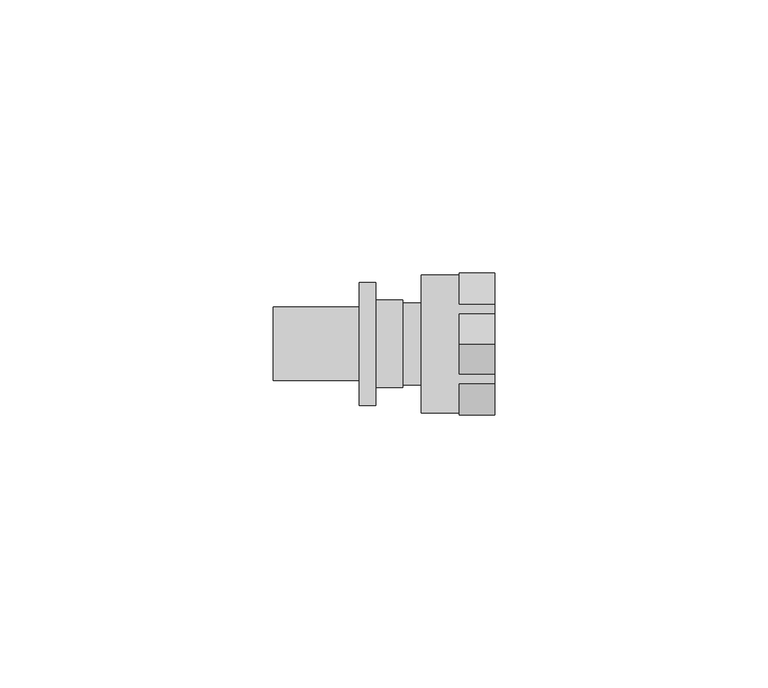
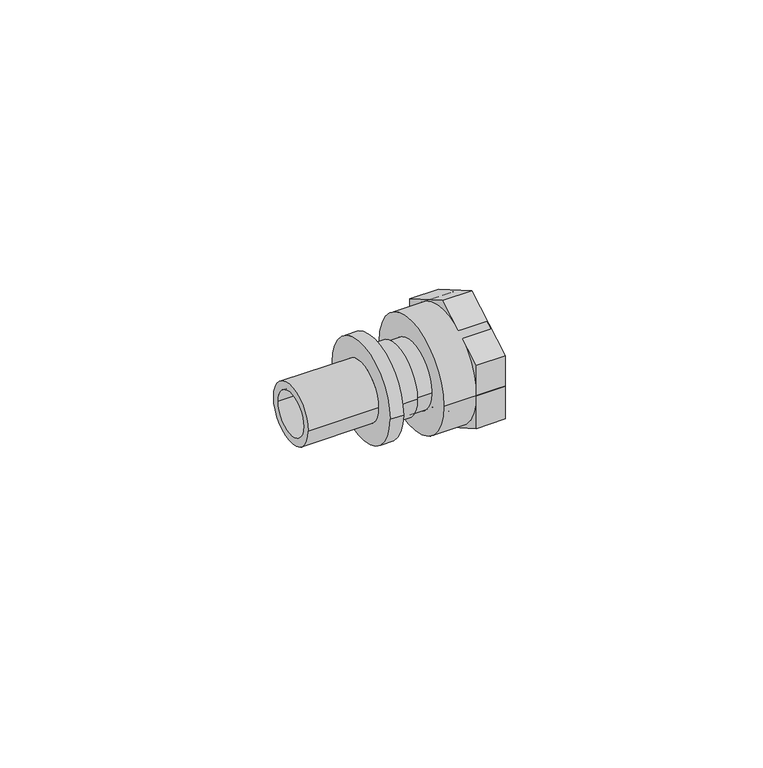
"""IFC4 building model written with IfcOpenShell, lengths in millimetres: pipe fitting geometry, REHAU_RAUTITAN_Adaptor_RX+_union nut : REHAU_RAUTITAN_Adaptor_RX+_union nut."""

from ifc_helpers import new_model, si_unit, point, frame, origin, origin_2d, place, context, project, spatial, polyline, circle_curve, trimmed, segment, composite_curve, outline, extrude, source, transform, mapped, element, save
from ifc_brep_helpers import plane_surface, cylinder_surface, revolved_surface, advanced_brep


def pipe_fitting_8a4c1e15(model_context):
    return source(origin(), model_context, "Body", "SolidModel", [
        advanced_brep(
        [(0.0, 8.0, 0.0), (0.0, -8.0, 0.0), (-5.0, -8.0, 0.0), (-5.0, 8.0, 0.0), (-23.75, 4.95, 0.0), (-23.75, -4.95, 0.0), (0.0, -4.95, 0.0), (0.0, 4.95, 0.0), (-8.0, 6.725, 0.0), (-8.0, -6.725, 0.0), (-23.75, -6.725, 0.0), (-23.75, 6.725, 0.0), (-5.0, 11.25, 0.0), (-5.0, -11.25, 0.0), (-8.0, -11.25, 0.0), (-8.0, 11.25, 0.0)],
        [
            (0, 1, circle_curve(frame((0.0, 0.0, 0.0), z_axis=(-1.0, 0.0, 0.0), x_axis=(0.0, -1.0, 0.0)), 8.0)),
            (1, 2),
            (2, 3, circle_curve(frame((-5.0, 0.0, 0.0), z_axis=(1.0, 0.0, 0.0), x_axis=(0.0, -1.0, 0.0)), 8.0)),
            (3, 0),
            (4, 5, circle_curve(frame((-23.75, 0.0, 0.0), z_axis=(-1.0, 0.0, 0.0), x_axis=(0.0, -1.0, 0.0)), 4.95)),
            (5, 6),
            (6, 7, circle_curve(frame((0.0, 0.0, 0.0), z_axis=(1.0, 0.0, 0.0), x_axis=(0.0, -1.0, 0.0)), 4.95)),
            (7, 4),
            (8, 9, circle_curve(frame((-8.0, 0.0, 0.0), z_axis=(-1.0, 0.0, 0.0), x_axis=(0.0, -1.0, 0.0)), 6.725)),
            (9, 10),
            (10, 11, circle_curve(frame((-23.75, 0.0, 0.0), z_axis=(1.0, 0.0, 0.0), x_axis=(0.0, -1.0, 0.0)), 6.725)),
            (11, 8),
            (12, 13, circle_curve(frame((-5.0, 0.0, 0.0), z_axis=(-1.0, 0.0, 0.0), x_axis=(0.0, -1.0, 0.0)), 11.25)),
            (13, 14),
            (14, 15, circle_curve(frame((-8.0, 0.0, 0.0), z_axis=(1.0, 0.0, 0.0), x_axis=(0.0, -1.0, 0.0)), 11.25)),
            (15, 12),
            (1, 0, circle_curve(frame((0.0, 0.0, 0.0), z_axis=(-1.0, 0.0, 0.0), x_axis=(0.0, 1.0, 0.0)), 8.0)),
            (3, 2, circle_curve(frame((-5.0, 0.0, 0.0), z_axis=(1.0, 0.0, 0.0), x_axis=(0.0, 1.0, 0.0)), 8.0)),
            (6, 7, circle_curve(frame((0.0, 0.0, 0.0), z_axis=(-1.0, 0.0, 0.0), x_axis=(0.0, 1.0, 0.0)), 4.95)),
            (5, 4, circle_curve(frame((-23.75, 0.0, 0.0), z_axis=(-1.0, 0.0, 0.0), x_axis=(0.0, 1.0, 0.0)), 4.95)),
            (10, 11, circle_curve(frame((-23.75, 0.0, 0.0), z_axis=(-1.0, 0.0, 0.0), x_axis=(0.0, 1.0, 0.0)), 6.725)),
            (9, 8, circle_curve(frame((-8.0, 0.0, 0.0), z_axis=(-1.0, 0.0, 0.0), x_axis=(0.0, 1.0, 0.0)), 6.725)),
            (14, 15, circle_curve(frame((-8.0, 0.0, 0.0), z_axis=(-1.0, 0.0, 0.0), x_axis=(0.0, 1.0, 0.0)), 11.25)),
            (13, 12, circle_curve(frame((-5.0, 0.0, 0.0), z_axis=(-1.0, 0.0, 0.0), x_axis=(0.0, 1.0, 0.0)), 11.25)),
        ],
        [
            cylinder_surface(frame((0.0, 0.0, 0.0), z_axis=(1.0, 0.0, 0.0), x_axis=(0.0, -1.0, 0.0)), 8.0),
            revolved_surface(polyline([(0.0, -4.95, 0.0), (-23.75, -4.95, 0.0)]), (0.0, 0.0, 0.0), (1.0, 0.0, 0.0)),
            cylinder_surface(frame((0.0, 0.0, 0.0), z_axis=(1.0, 0.0, 0.0), x_axis=(0.0, -1.0, 0.0)), 6.725),
            cylinder_surface(frame((0.0, 0.0, 0.0), z_axis=(1.0, 0.0, 0.0), x_axis=(0.0, -1.0, 0.0)), 11.25),
            cylinder_surface(frame((0.0, 0.0, 0.0), z_axis=(1.0, 0.0, 0.0), x_axis=(0.0, 1.0, 0.0)), 8.0),
            plane_surface(frame((0.0, 0.0, 0.0), z_axis=(1.0, 0.0, 0.0), x_axis=(0.0, 1.0, 0.0))),
            revolved_surface(polyline([(0.0, 4.95, 0.0), (-23.75, 4.95, 0.0)]), (0.0, 0.0, 0.0), (1.0, 0.0, 0.0)),
            plane_surface(frame((-23.75, 0.0, 0.0), z_axis=(-1.0, 0.0, 0.0), x_axis=(0.0, 1.0, 0.0))),
            cylinder_surface(frame((0.0, 0.0, 0.0), z_axis=(1.0, 0.0, 0.0), x_axis=(0.0, 1.0, 0.0)), 6.725),
            plane_surface(frame((-8.0, 0.0, 0.0), z_axis=(-1.0, 0.0, 0.0), x_axis=(0.0, 1.0, 0.0))),
            cylinder_surface(frame((0.0, 0.0, 0.0), z_axis=(1.0, 0.0, 0.0), x_axis=(0.0, 1.0, 0.0)), 11.25),
            plane_surface(frame((-5.0, 0.0, 0.0), z_axis=(1.0, 0.0, 0.0), x_axis=(0.0, 1.0, 0.0))),
        ],
        [
            (0, [[1, 2, 3, 4]]),
            (1, [[5, 6, 7, 8]]),
            (2, [[9, 10, 11, 12]]),
            (3, [[13, 14, 15, 16]]),
            (4, [[17, -4, 18, -2]]),
            (5, [[-17, -1], [19, -7]]),
            (6, [[20, -8, -19, -6]]),
            (7, [[21, -11], [-20, -5]]),
            (8, [[22, -12, -21, -10]]),
            (9, [[23, -15], [-22, -9]]),
            (10, [[24, -16, -23, -14]]),
            (11, [[-24, -13], [-18, -3]]),
        ],
    ),
        advanced_brep(
        [(5.05, 7.5, 0.0), (5.05, -7.5, 0.0), (0.0, -7.5, 0.0), (0.0, 7.5, 0.0), (8.05, 9.25, 0.0), (8.05, -9.25, 0.0), (5.05, -9.25, 0.0), (5.05, 9.25, 0.0), (1.4730817, 4.95, 0.0), (1.4730817, -4.95, 0.0), (8.05, -4.95, 0.0), (8.05, 4.95, 0.0), (0.0, 2.7764556, 0.0), (0.0, -2.7764556, 0.0), (1.4730817, -2.7764556, 0.0), (1.4730817, 2.7764556, 0.0)],
        [
            (0, 1, circle_curve(frame((5.05, 0.0, 0.0), z_axis=(-1.0, 0.0, 0.0), x_axis=(0.0, -1.0, 0.0)), 7.5)),
            (1, 2),
            (2, 3, circle_curve(frame((0.0, 0.0, 0.0), z_axis=(1.0, 0.0, 0.0), x_axis=(0.0, -1.0, 0.0)), 7.5)),
            (3, 0),
            (4, 5, circle_curve(frame((8.05, 0.0, 0.0), z_axis=(-1.0, 0.0, 0.0), x_axis=(0.0, -1.0, 0.0)), 9.25)),
            (5, 6),
            (6, 7, circle_curve(frame((5.05, 0.0, 0.0), z_axis=(1.0, 0.0, 0.0), x_axis=(0.0, -1.0, 0.0)), 9.25)),
            (7, 4),
            (8, 9, circle_curve(frame((1.4730817, 0.0, 0.0), z_axis=(-1.0, 0.0, 0.0), x_axis=(0.0, -1.0, 0.0)), 4.95)),
            (9, 10),
            (10, 11, circle_curve(frame((8.05, 0.0, 0.0), z_axis=(1.0, 0.0, 0.0), x_axis=(0.0, -1.0, 0.0)), 4.95)),
            (11, 8),
            (2, 3, circle_curve(frame((0.0, 0.0, 0.0), z_axis=(-1.0, 0.0, 0.0), x_axis=(0.0, 1.0, 0.0)), 7.5)),
            (12, 13, circle_curve(frame((0.0, 0.0, 0.0), z_axis=(1.0, 0.0, 0.0), x_axis=(0.0, 1.0, 0.0)), 2.7764556)),
            (13, 12, circle_curve(frame((0.0, 0.0, 0.0), z_axis=(1.0, 0.0, 0.0), x_axis=(0.0, -1.0, 0.0)), 2.7764556)),
            (1, 0, circle_curve(frame((5.05, 0.0, 0.0), z_axis=(-1.0, 0.0, 0.0), x_axis=(0.0, 1.0, 0.0)), 7.5)),
            (6, 7, circle_curve(frame((5.05, 0.0, 0.0), z_axis=(-1.0, 0.0, 0.0), x_axis=(0.0, 1.0, 0.0)), 9.25)),
            (5, 4, circle_curve(frame((8.05, 0.0, 0.0), z_axis=(-1.0, 0.0, 0.0), x_axis=(0.0, 1.0, 0.0)), 9.25)),
            (10, 11, circle_curve(frame((8.05, 0.0, 0.0), z_axis=(-1.0, 0.0, 0.0), x_axis=(0.0, 1.0, 0.0)), 4.95)),
            (9, 8, circle_curve(frame((1.4730817, 0.0, 0.0), z_axis=(-1.0, 0.0, 0.0), x_axis=(0.0, 1.0, 0.0)), 4.95)),
            (13, 14),
            (14, 15, circle_curve(frame((1.4730817, 0.0, 0.0), z_axis=(1.0, 0.0, 0.0), x_axis=(0.0, -1.0, 0.0)), 2.7764556)),
            (15, 12),
            (14, 15, circle_curve(frame((1.4730817, 0.0, 0.0), z_axis=(-1.0, 0.0, 0.0), x_axis=(0.0, 1.0, 0.0)), 2.7764556)),
        ],
        [
            cylinder_surface(frame((0.0, 0.0, 0.0), z_axis=(1.0, 0.0, 0.0), x_axis=(0.0, -1.0, 0.0)), 7.5),
            cylinder_surface(frame((0.0, 0.0, 0.0), z_axis=(1.0, 0.0, 0.0), x_axis=(0.0, -1.0, 0.0)), 9.25),
            revolved_surface(polyline([(8.05, -4.95, 0.0), (1.4730817, -4.95, 0.0)]), (0.0, 0.0, 0.0), (1.0, 0.0, 0.0)),
            plane_surface(frame((0.0, 0.0, 0.0), z_axis=(-1.0, 0.0, 0.0), x_axis=(0.0, 1.0, 0.0))),
            cylinder_surface(frame((0.0, 0.0, 0.0), z_axis=(1.0, 0.0, 0.0), x_axis=(0.0, 1.0, 0.0)), 7.5),
            plane_surface(frame((5.05, 0.0, 0.0), z_axis=(-1.0, 0.0, 0.0), x_axis=(0.0, 1.0, 0.0))),
            cylinder_surface(frame((0.0, 0.0, 0.0), z_axis=(1.0, 0.0, 0.0), x_axis=(0.0, 1.0, 0.0)), 9.25),
            plane_surface(frame((8.05, 0.0, 0.0), z_axis=(1.0, 0.0, 0.0), x_axis=(0.0, 1.0, 0.0))),
            revolved_surface(polyline([(8.05, 4.95, 0.0), (1.4730817, 4.95, 0.0)]), (0.0, 0.0, 0.0), (1.0, 0.0, 0.0)),
            revolved_surface(polyline([(1.4730817, -2.7764556, 0.0), (0.0, -2.7764556, 0.0)]), (0.0, 0.0, 0.0), (1.0, 0.0, 0.0)),
            plane_surface(frame((1.4730817, 0.0, 0.0), z_axis=(1.0, 0.0, 0.0), x_axis=(0.0, 1.0, 0.0))),
            revolved_surface(polyline([(1.4730817, 2.7764556, 0.0), (0.0, 2.7764556, 0.0)]), (0.0, 0.0, 0.0), (1.0, 0.0, 0.0)),
        ],
        [
            (0, [[1, 2, 3, 4]]),
            (1, [[5, 6, 7, 8]]),
            (2, [[9, 10, 11, 12]]),
            (3, [[13, -3], [14, 15]]),
            (4, [[16, -4, -13, -2]]),
            (5, [[17, -7], [-16, -1]]),
            (6, [[18, -8, -17, -6]]),
            (7, [[-18, -5], [19, -11]]),
            (8, [[20, -12, -19, -10]]),
            (9, [[-15, 21, 22, 23]]),
            (10, [[-20, -9], [24, -22]]),
            (11, [[-14, -23, -24, -21]]),
        ],
    ),
        advanced_brep(
        [(16.85, 12.65, 0.0), (16.85, -12.65, 0.0), (3.35, -12.65, 0.0), (3.35, 12.65, 0.0), (5.05, 9.25, 0.0), (5.05, -9.25, 0.0), (16.85, -9.25, 0.0), (16.85, 9.25, 0.0), (3.35, 7.55, 0.0), (3.35, -7.55, 0.0), (5.05, -7.55, 0.0), (5.05, 7.55, 0.0)],
        [
            (0, 1, circle_curve(frame((16.85, 0.0, 0.0), z_axis=(-1.0, 0.0, 0.0), x_axis=(0.0, -1.0, 0.0)), 12.65)),
            (1, 2),
            (2, 3, circle_curve(frame((3.35, 0.0, 0.0), z_axis=(1.0, 0.0, 0.0), x_axis=(0.0, -1.0, 0.0)), 12.65)),
            (3, 0),
            (4, 5, circle_curve(frame((5.05, 0.0, 0.0), z_axis=(-1.0, 0.0, 0.0), x_axis=(0.0, -1.0, 0.0)), 9.25)),
            (5, 6),
            (6, 7, circle_curve(frame((16.85, 0.0, 0.0), z_axis=(1.0, 0.0, 0.0), x_axis=(0.0, -1.0, 0.0)), 9.25)),
            (7, 4),
            (8, 9, circle_curve(frame((3.35, 0.0, 0.0), z_axis=(-1.0, 0.0, 0.0), x_axis=(0.0, -1.0, 0.0)), 7.55)),
            (9, 10),
            (10, 11, circle_curve(frame((5.05, 0.0, 0.0), z_axis=(1.0, 0.0, 0.0), x_axis=(0.0, -1.0, 0.0)), 7.55)),
            (11, 8),
            (1, 0, circle_curve(frame((16.85, 0.0, 0.0), z_axis=(-1.0, 0.0, 0.0), x_axis=(0.0, 1.0, 0.0)), 12.65)),
            (3, 2, circle_curve(frame((3.35, 0.0, 0.0), z_axis=(1.0, 0.0, 0.0), x_axis=(0.0, 1.0, 0.0)), 12.65)),
            (6, 7, circle_curve(frame((16.85, 0.0, 0.0), z_axis=(-1.0, 0.0, 0.0), x_axis=(0.0, 1.0, 0.0)), 9.25)),
            (5, 4, circle_curve(frame((5.05, 0.0, 0.0), z_axis=(-1.0, 0.0, 0.0), x_axis=(0.0, 1.0, 0.0)), 9.25)),
            (10, 11, circle_curve(frame((5.05, 0.0, 0.0), z_axis=(-1.0, 0.0, 0.0), x_axis=(0.0, 1.0, 0.0)), 7.55)),
            (9, 8, circle_curve(frame((3.35, 0.0, 0.0), z_axis=(-1.0, 0.0, 0.0), x_axis=(0.0, 1.0, 0.0)), 7.55)),
        ],
        [
            cylinder_surface(frame((0.0, 0.0, 0.0), z_axis=(1.0, 0.0, 0.0), x_axis=(0.0, -1.0, 0.0)), 12.65),
            revolved_surface(polyline([(16.85, -9.25, 0.0), (5.05, -9.25, 0.0)]), (0.0, 0.0, 0.0), (1.0, 0.0, 0.0)),
            revolved_surface(polyline([(5.05, -7.55, 0.0), (3.35, -7.55, 0.0)]), (0.0, 0.0, 0.0), (1.0, 0.0, 0.0)),
            cylinder_surface(frame((0.0, 0.0, 0.0), z_axis=(1.0, 0.0, 0.0), x_axis=(0.0, 1.0, 0.0)), 12.65),
            plane_surface(frame((16.85, 0.0, 0.0), z_axis=(1.0, 0.0, 0.0), x_axis=(0.0, 1.0, 0.0))),
            revolved_surface(polyline([(16.85, 9.25, 0.0), (5.05, 9.25, 0.0)]), (0.0, 0.0, 0.0), (1.0, 0.0, 0.0)),
            plane_surface(frame((5.05, 0.0, 0.0), z_axis=(1.0, 0.0, 0.0), x_axis=(0.0, 1.0, 0.0))),
            revolved_surface(polyline([(5.05, 7.55, 0.0), (3.35, 7.55, 0.0)]), (0.0, 0.0, 0.0), (1.0, 0.0, 0.0)),
            plane_surface(frame((3.35, 0.0, 0.0), z_axis=(-1.0, 0.0, 0.0), x_axis=(0.0, 1.0, 0.0))),
        ],
        [
            (0, [[1, 2, 3, 4]]),
            (1, [[5, 6, 7, 8]]),
            (2, [[9, 10, 11, 12]]),
            (3, [[13, -4, 14, -2]]),
            (4, [[-13, -1], [15, -7]]),
            (5, [[16, -8, -15, -6]]),
            (6, [[-16, -5], [17, -11]]),
            (7, [[18, -12, -17, -10]]),
            (8, [[-14, -3], [-18, -9]]),
        ],
    ),
        extrude(outline(polyline([(0.0, -15.011107), (-13.0, -7.5055535), (-13.0, 7.5055535), (0.0, 15.011107), (13.0, 7.5055535), (13.0, -7.5055535), (0.0, -15.011107)]), holes=[composite_curve([segment(trimmed(circle_curve(origin_2d(), 12.65), [point((-12.65, 0.0))], [point((12.65, 0.0))], True, "CARTESIAN"), True, "CONTINUOUS"), segment(trimmed(circle_curve(origin_2d(), 12.65), [point((12.65, 0.0))], [point((-12.65, 0.0))], True, "CARTESIAN"), True, "CONTINUOUS")], self_intersect=False)]), frame((10.35, 0.0, 0.0), z_axis=(1.0, 0.0, 0.0), x_axis=(0.0, 1.0, 0.0)), (0.0, 0.0, 1.0), 6.5),
    ])


if __name__ == "__main__":
    model = new_model("IFC4")
    model_context = context("Model", 3, world=origin())
    ifc_project = project(units=[si_unit("LENGTHUNIT", "METRE", prefix="MILLI")], contexts=[model_context])
    site = spatial("IfcSite", under=ifc_project)
    building = spatial("IfcBuilding", under=site)
    placement = place(None, origin())
    pipe_fitting_shape = pipe_fitting_8a4c1e15(model_context)
    element("IfcPipeFitting", 1, ObjectType="REHAU_RAUTITAN_Adaptor_RX+_union nut : REHAU_RAUTITAN_Adaptor_RX+_union nut", at=placement, inside=building, context=model_context, shape_type="MappedRepresentation", body=[
        mapped(pipe_fitting_shape, transform((0.0, 0.0, 0.0), x_axis=(1.0, 0.0, 0.0), y_axis=(0.0, 1.0, 0.0), z_axis=(0.0, 0.0, 1.0))),
    ])
    save(model, "model.ifc")
